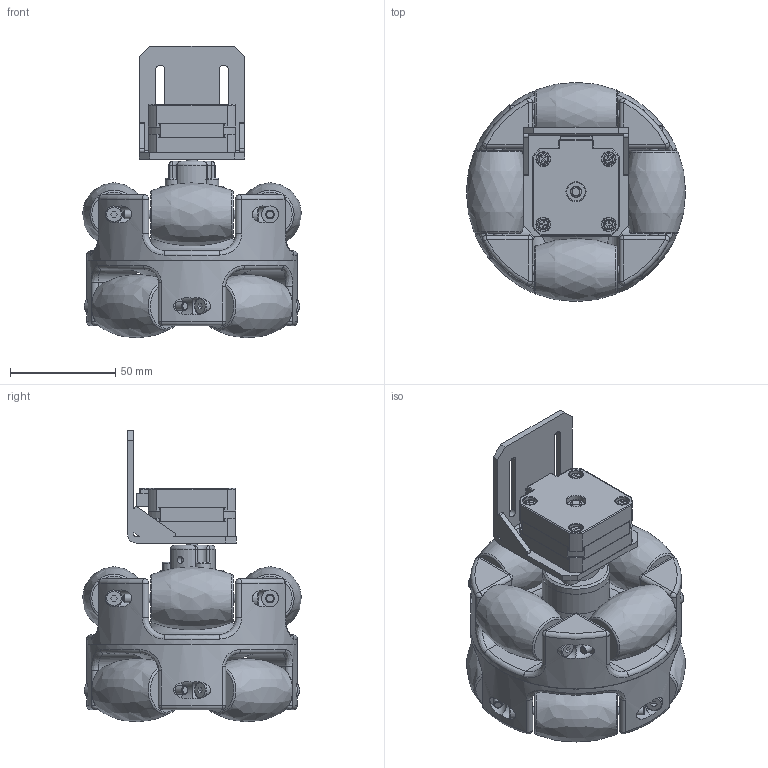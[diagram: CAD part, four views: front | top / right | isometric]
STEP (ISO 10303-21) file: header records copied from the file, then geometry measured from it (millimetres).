
FILE_DESCRIPTION(/* description */ (''),/* implementation_level */ '2;1');
FILE_NAME(/* name */ 'Assieme2_con_ruote.stp',/* time_stamp */ '2025-05-20T20:15:00+02:00',/* author */ ('R5800u'),/* organization */ (''),/* preprocessor_version */ 'ST-DEVELOPER v20',/* originating_system */ 'Autodesk Inventor 2025',/* authorisation */ '');
FILE_SCHEMA (('AUTOMOTIVE_DESIGN { 1 0 10303 214 3 1 1 }'));
Length unit declared in the file: millimetre
Products named in the file (17): Assieme2_con_ruote; Assieme1; Parte1b; Parte1c; blocco_albero_ruota; ruota; vite2; vite3; nema17_pancake; back_plate; front_plate; stator; 625ZZ; rotor; connector; M3_screw; Body
Assembly tree (36 placements, depth 3):
  Assieme2_con_ruote
    Assieme1
      Parte1b
      Parte1c
    ruota  x8
    blocco_albero_ruota
    vite2  x3
    vite3  x8
    nema17_pancake
      back_plate
      front_plate
      stator
      625ZZ  x2
      rotor
      connector
      M3_screw  x4
    Body
Bounding box: 104 x 104 x 138.23 mm (x, y, z)
Volume: 434451.1 mm3; surface area: 142766.3 mm2
Topology: 34 solids, 34 shells, 861 faces, 1979 edges, 1248 vertices
Faces by surface type: plane 433, cylinder 250, torus 81, bspline 40, cone 33, sphere 24
Full cylindrical faces by diameter (mm): 3 x16, 3.1 x1, 3.2 x10, 3.5 x4, 4 x27, 5 x14, 5.1 x1, 5.2 x4, 6.5 x4, 7 x2, 8 x27, 9 x5, 10 x1, 11.9 x1, 12 x1, 12.3 x4, 16 x4, 22 x3, 22.15 x1, 30 x1, 31 x2, 31.9 x1, 32 x1, 100 x2
Entity records: 20654 total; most frequent: CARTESIAN_POINT 5418, DIRECTION 3085, ORIENTED_EDGE 2830, EDGE_CURVE 1415, AXIS2_PLACEMENT_3D 1175, VERTEX_POINT 882, EDGE_LOOP 757, LINE 735
